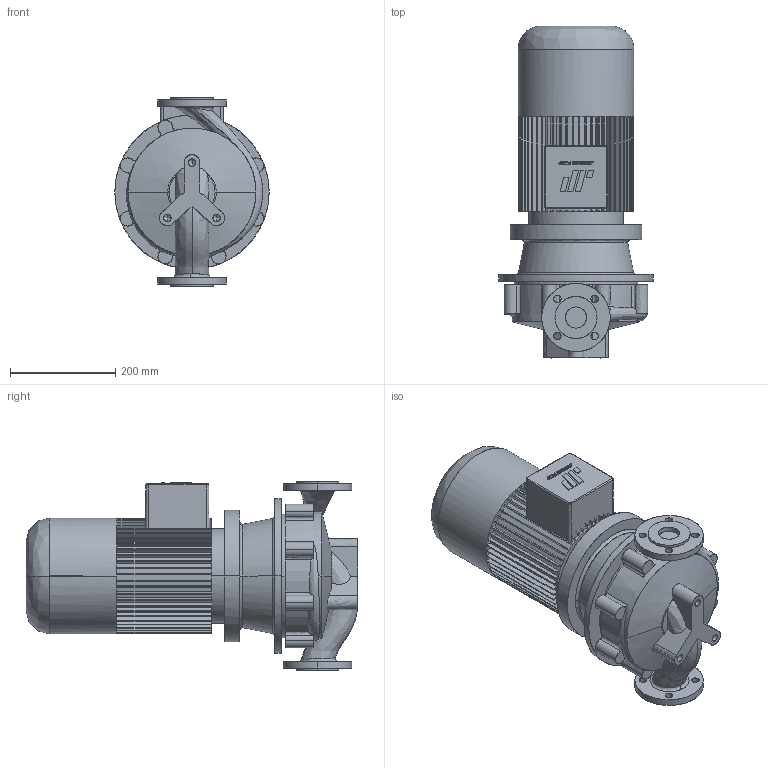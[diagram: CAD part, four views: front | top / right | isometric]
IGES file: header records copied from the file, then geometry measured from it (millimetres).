
Start section: CombiLine
Global section: file name: CLB_40-200_IEC112M.igs; native system:  By UGS Corp.; preprocessor: XPlus GENERIC/IGES 3.0; author: Stageplaats; organization: Johnson Pump Water B.V.; date: 20070712.151833; units: millimetre
Bounding box: 293 x 630.5 x 360 mm (x, y, z)
Surface area: 936019.1 mm2 (no closed solid volume)
Topology: 0 solids, 0 shells, 548 faces, 3348 edges, 3342 vertices
Faces by surface type: bspline 548
